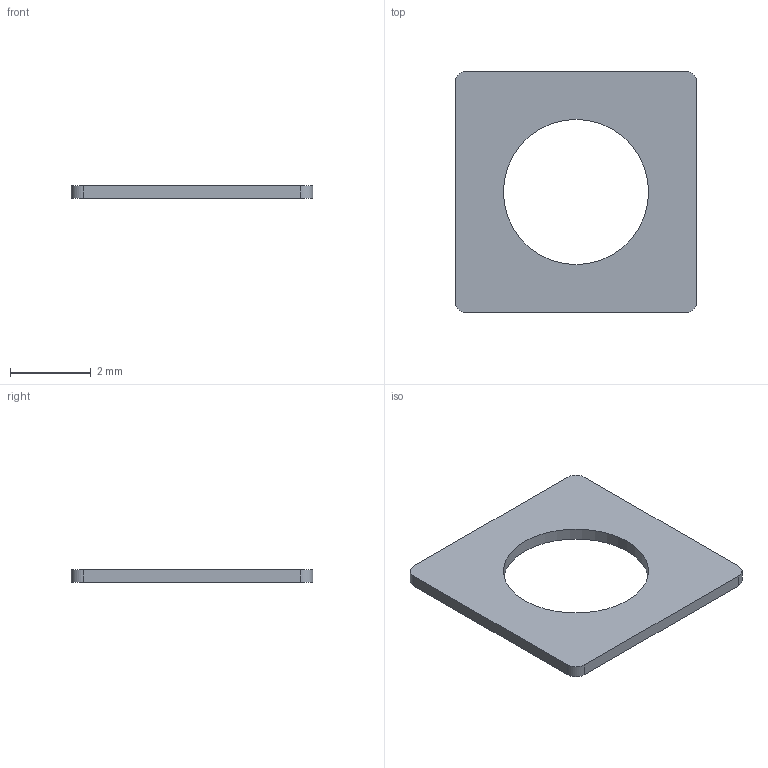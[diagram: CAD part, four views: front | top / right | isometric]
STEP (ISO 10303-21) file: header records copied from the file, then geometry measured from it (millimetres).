
FILE_DESCRIPTION(/* description */ ('STEP AP242 Edition 2','CAx-IF Rec.Pracs.---Representation and Presentation of Product Manufacturing Information (PMI)---4.0---2014-10-13','CAx-IF Rec.Pracs.---3D Tessellated Geometry---0.4---2014-09-14','2;1','CAx-IF Rec.Pracs.---User Defined Attributes---1.5---2016-08-15'),/* implementation_level */ '2;1');
FILE_NAME(/* name */ 'Assembly 1 - SW-TH_4P-L6.0-W6.0-P4.50-LS6.5~SW-TH_4P-L6.0-W6.0-P4.50-LS6.3-H20.0~nxQB',/* time_stamp */ '2026-04-02T09:55:27Z',/* author */ (''),/* organization */ (''),/* preprocessor_version */ 'ST-DEVELOPER v20',/* originating_system */ 'ONSHAPE BY PTC INC, 1.212',/* authorisation */ ' ');
FILE_SCHEMA (('AP242_MANAGED_MODEL_BASED_3D_ENGINEERING_MIM_LF { 1 0 10303 442 3 1 4 }'));
Length unit declared in the file: metre
Products named in the file (1): SW-TH_4P-L6.0-W6.0-P4.50-LS6.5~SW-TH_4P-L6.0-W6.0-P4.50-LS6.3-H20.0~n
xQB
Bounding box: 6 x 6 x 0.3 mm (x, y, z)
Volume: 7.7 mm3; surface area: 61.9 mm2
Topology: 1 solids, 1 shells, 11 faces, 27 edges, 18 vertices
Faces by surface type: plane 6, cylinder 5
Full cylindrical faces by diameter (mm): 3.6 x1
Entity records: 430 total; most frequent: DIRECTION 60, CARTESIAN_POINT 56, ORIENTED_EDGE 52, EDGE_CURVE 26, AXIS2_PLACEMENT_3D 22, VERTEX_POINT 18, LINE 16, VECTOR 16
